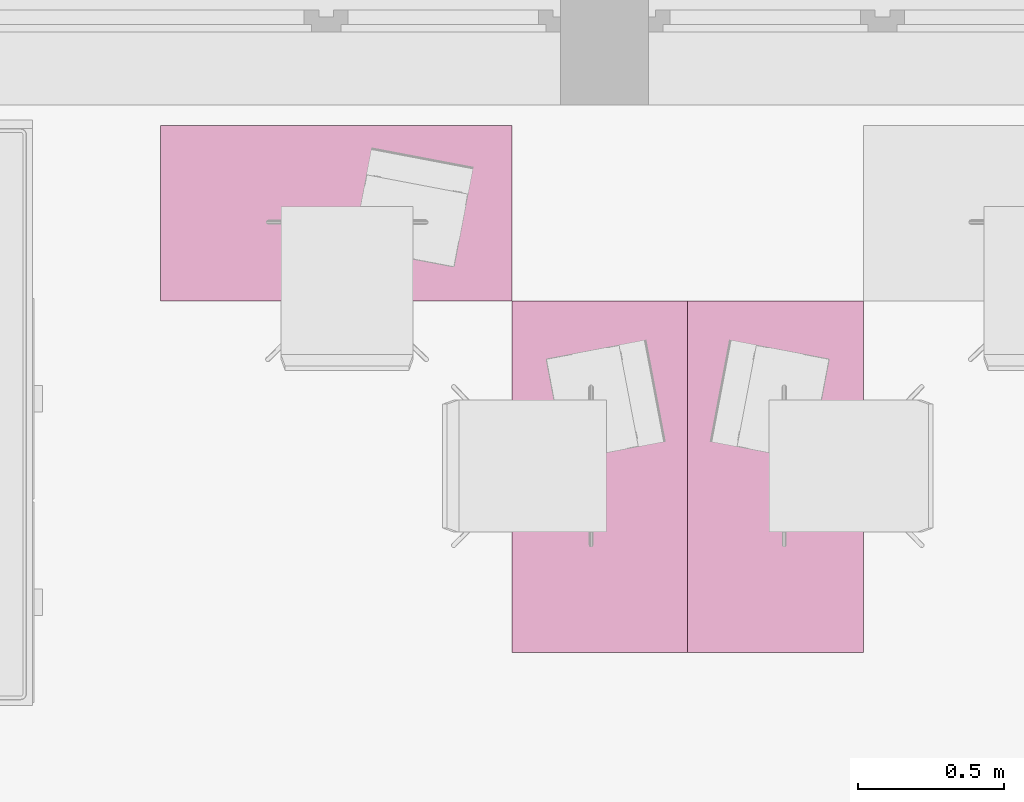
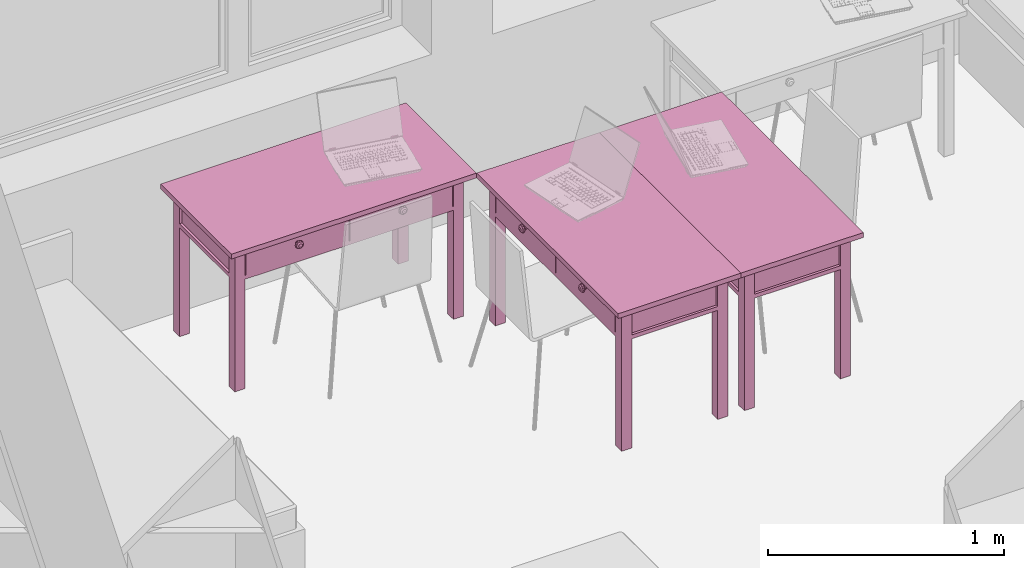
# One storey, part 147 of 165: 3 furnishings.
"""IFC2X3 building model written with IfcOpenShell, lengths in millimetres."""

from ifc_helpers import new_model, entity, si_unit, converted_unit, money_unit, direction, frame, origin_with_axes, place, context, subcontext, project, spatial, faceted_brep, source, transform, mapped, material, material_list, type_object, element, save


model = new_model("IFC2X3")

# Units and contexts
model_context = context("Model", 3, precision=1e-05, world=origin_with_axes(), true_north=direction((0.0, 1.0)))
body_context = subcontext(model_context, "Body", "Model", "MODEL_VIEW")
ifc_project = project(units=[si_unit("LENGTHUNIT", "METRE", prefix="MILLI"), si_unit("AREAUNIT", "SQUARE_METRE"), si_unit("VOLUMEUNIT", "CUBIC_METRE"), converted_unit("PLANEANGLEUNIT", "DEGREE", entity("IfcPlaneAngleMeasure", 0.0174532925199), si_unit("PLANEANGLEUNIT", "RADIAN"), dimensions=[0, 0, 0, 0, 0, 0, 0]), si_unit("SOLIDANGLEUNIT", "STERADIAN"), money_unit("USD"), converted_unit("TIMEUNIT", "Year", entity("IfcTimeMeasure", 31556926.0), si_unit("TIMEUNIT", "SECOND"), dimensions=[0, 0, 0, 0, 0, 0, 0]), si_unit("MASSUNIT", "GRAM"), si_unit("THERMODYNAMICTEMPERATUREUNIT", "DEGREE_CELSIUS"), si_unit("LUMINOUSINTENSITYUNIT", "LUMEN")], contexts=[model_context])

# Site, building, storey
site_placement = place(None, origin_with_axes())
site = spatial("IfcSite", under=ifc_project, at=site_placement, Name="Site", CompositionType="ELEMENT")
building_placement = place(site_placement, origin_with_axes())
building = spatial("IfcBuilding", under=site, at=building_placement, Name="Building", CompositionType="ELEMENT")
storey_placement = place(building_placement, frame((0.0, 0.0, 6300.0), z_axis=(0.0, 0.0, 1.0), x_axis=(1.0, 0.0, 0.0)))
storey = spatial("IfcBuildingStorey", under=building, at=storey_placement, Name="4KORRUS", CompositionType="ELEMENT", Elevation=6300.0)

# Furnishings
ifc_material = material(Name="Background")
ifc_material_list = material_list([ifc_material])
furnishing_element_type = type_object("IfcFurnishingElementType", Name="Rectangular Table 01 19")
shared_shape_1 = source(origin_with_axes(), body_context, "Body", "Brep", [
    faceted_brep([(90.0, 40.0, 0.0), (40.0, 40.0, 0.0), (40.0, 90.0, 0.0), (90.0, 90.0, 0.0), (90.0, 40.0, 725.0), (40.0, 40.0, 725.0), (40.0, 90.0, 725.0), (90.0, 90.0, 725.0)], [[[0, 1, 2, 3]], [[1, 0, 4, 5]], [[2, 1, 5, 6]], [[3, 2, 6, 7]], [[0, 3, 7, 4]], [[5, 4, 7, 6]]]),
    faceted_brep([(1160.0, 40.0, 0.0), (1110.0, 40.0, 0.0), (1110.0, 90.0, 0.0), (1160.0, 90.0, 0.0), (1160.0, 40.0, 725.0), (1110.0, 40.0, 725.0), (1110.0, 90.0, 725.0), (1160.0, 90.0, 725.0)], [[[0, 1, 2, 3]], [[1, 0, 4, 5]], [[2, 1, 5, 6]], [[3, 2, 6, 7]], [[0, 3, 7, 4]], [[5, 4, 7, 6]]]),
    faceted_brep([(90.0, 510.0, 0.0), (40.0, 510.0, 0.0), (40.0, 560.0, 0.0), (90.0, 560.0, 0.0), (90.0, 510.0, 725.0), (40.0, 510.0, 725.0), (40.0, 560.0, 725.0), (90.0, 560.0, 725.0)], [[[0, 1, 2, 3]], [[1, 0, 4, 5]], [[2, 1, 5, 6]], [[3, 2, 6, 7]], [[0, 3, 7, 4]], [[5, 4, 7, 6]]]),
    faceted_brep([(1160.0, 510.0, 0.0), (1110.0, 510.0, 0.0), (1110.0, 560.0, 0.0), (1160.0, 560.0, 0.0), (1160.0, 510.0, 725.0), (1110.0, 510.0, 725.0), (1110.0, 560.0, 725.0), (1160.0, 560.0, 725.0)], [[[0, 1, 2, 3]], [[1, 0, 4, 5]], [[2, 1, 5, 6]], [[3, 2, 6, 7]], [[0, 3, 7, 4]], [[5, 4, 7, 6]]]),
    faceted_brep([(1160.0, 40.0, 565.0), (40.0, 40.0, 565.0), (40.0, 560.0, 565.0), (1160.0, 560.0, 565.0), (1160.0, 40.0, 585.0), (40.0, 40.0, 585.0), (40.0, 560.0, 585.0), (1160.0, 560.0, 585.0)], [[[0, 1, 2, 3]], [[1, 0, 4, 5]], [[2, 1, 5, 6]], [[3, 2, 6, 7]], [[0, 3, 7, 4]], [[5, 4, 7, 6]]]),
    faceted_brep([(1110.0, 52.5, 585.0), (90.0, 52.5, 585.0), (90.0, 77.5, 585.0), (1110.0, 77.5, 585.0), (1110.0, 52.5, 745.0), (90.0, 52.5, 745.0), (90.0, 77.5, 745.0), (1110.0, 77.5, 745.0)], [[[0, 1, 2, 3]], [[1, 0, 4, 5]], [[2, 1, 5, 6]], [[3, 2, 6, 7]], [[0, 3, 7, 4]], [[5, 4, 7, 6]]]),
    faceted_brep([(77.5, 90.0, 585.0), (52.5, 90.0, 585.0), (52.5, 510.0, 585.0), (77.5, 510.0, 585.0), (77.5, 90.0, 745.0), (52.5, 90.0, 745.0), (52.5, 510.0, 745.0), (77.5, 510.0, 745.0)], [[[0, 1, 2, 3]], [[1, 0, 4, 5]], [[2, 1, 5, 6]], [[3, 2, 6, 7]], [[0, 3, 7, 4]], [[5, 4, 7, 6]]]),
    faceted_brep([(90.0, 547.5, 585.0), (1110.0, 547.5, 585.0), (1110.0, 522.5, 585.0), (90.0, 522.5, 585.0), (90.0, 547.5, 745.0), (1110.0, 547.5, 745.0), (1110.0, 522.5, 745.0), (90.0, 522.5, 745.0)], [[[0, 1, 2, 3]], [[1, 0, 4, 5]], [[2, 1, 5, 6]], [[3, 2, 6, 7]], [[0, 3, 7, 4]], [[5, 4, 7, 6]]]),
    faceted_brep([(1122.5, 510.0, 585.0), (1147.5, 510.0, 585.0), (1147.5, 90.0, 585.0), (1122.5, 90.0, 585.0), (1122.5, 510.0, 745.0), (1147.5, 510.0, 745.0), (1147.5, 90.0, 745.0), (1122.5, 90.0, 745.0)], [[[0, 1, 2, 3]], [[1, 0, 4, 5]], [[2, 1, 5, 6]], [[3, 2, 6, 7]], [[0, 3, 7, 4]], [[5, 4, 7, 6]]]),
    faceted_brep([(597.5, 40.0, 585.0), (95.0, 40.0, 585.0), (95.0, 60.0, 585.0), (597.5, 60.0, 585.0), (597.5, 40.0, 745.0), (95.0, 40.0, 745.0), (95.0, 60.0, 745.0), (597.5, 60.0, 745.0)], [[[0, 1, 2, 3]], [[1, 0, 4, 5]], [[2, 1, 5, 6]], [[3, 2, 6, 7]], [[0, 3, 7, 4]], [[5, 4, 7, 6]]]),
    faceted_brep([(1105.0, 40.0, 585.0), (602.5, 40.0, 585.0), (602.5, 60.0, 585.0), (1105.0, 60.0, 585.0), (1105.0, 40.0, 745.0), (602.5, 40.0, 745.0), (602.5, 60.0, 745.0), (1105.0, 60.0, 745.0)], [[[0, 1, 2, 3]], [[1, 0, 4, 5]], [[2, 1, 5, 6]], [[3, 2, 6, 7]], [[0, 3, 7, 4]], [[5, 4, 7, 6]]]),
    faceted_brep([(354.91, 40.0, 660.0), (351.25, 40.0, 656.34), (346.25, 40.0, 655.0), (341.25, 40.0, 656.34), (337.59, 40.0, 660.0), (336.25, 40.0, 665.0), (337.59, 40.0, 670.0), (341.25, 40.0, 673.66), (346.25, 40.0, 675.0), (351.25, 40.0, 673.66), (354.91, 40.0, 670.0), (356.25, 40.0, 665.0), (354.91, 25.0, 660.0), (351.25, 25.0, 656.34), (346.25, 25.0, 655.0), (341.25, 25.0, 656.34), (337.59, 25.0, 660.0), (336.25, 25.0, 665.0), (337.59, 25.0, 670.0), (341.25, 25.0, 673.66), (346.25, 25.0, 675.0), (351.25, 25.0, 673.66), (354.91, 25.0, 670.0), (356.25, 25.0, 665.0)], [[[0, 1, 2, 3, 4, 5, 6, 7, 8, 9, 10, 11]], [[1, 0, 12, 13]], [[2, 1, 13, 14]], [[3, 2, 14, 15]], [[4, 3, 15, 16]], [[5, 4, 16, 17]], [[6, 5, 17, 18]], [[7, 6, 18, 19]], [[8, 7, 19, 20]], [[9, 8, 20, 21]], [[10, 9, 21, 22]], [[11, 10, 22, 23]], [[0, 11, 23, 12]], [[12, 23, 22, 21, 20, 19, 18, 17, 16, 15, 14, 13]]]),
    faceted_brep([(356.25, 12.01, 665.0), (346.25, 10.0, 665.0), (354.91, 12.01, 660.0), (354.91, 12.01, 670.0), (351.25, 12.01, 656.34), (363.571, 17.5, 665.0), (361.25, 17.5, 656.34), (351.25, 12.01, 673.66), (361.25, 17.5, 673.66), (346.25, 12.01, 655.0), (354.91, 17.5, 650.0), (366.25, 25.0, 665.0), (363.571, 25.0, 655.0), (346.25, 12.01, 675.0), (354.91, 17.5, 680.0), (363.571, 25.0, 675.0), (341.25, 12.01, 656.34), (346.25, 17.5, 647.679), (356.25, 25.0, 647.679), (346.25, 25.0, 645.0), (336.25, 25.0, 647.679), (328.929, 25.0, 655.0), (326.25, 25.0, 665.0), (328.929, 25.0, 675.0), (336.25, 25.0, 682.321), (346.25, 25.0, 685.0), (356.25, 25.0, 682.321), (341.25, 12.01, 673.66), (346.25, 17.5, 682.321), (337.59, 12.01, 660.0), (337.59, 17.5, 650.0), (331.25, 17.5, 656.34), (328.929, 17.5, 665.0), (331.25, 17.5, 673.66), (337.59, 17.5, 680.0), (337.59, 12.01, 670.0), (336.25, 12.01, 665.0)], [[[0, 1, 2]], [[3, 1, 0]], [[2, 1, 4]], [[5, 0, 2, 6]], [[7, 1, 3]], [[8, 3, 0, 5]], [[4, 1, 9]], [[6, 2, 4, 10]], [[11, 5, 6, 12]], [[13, 1, 7]], [[14, 7, 3, 8]], [[15, 8, 5, 11]], [[9, 1, 16]], [[10, 4, 9, 17]], [[12, 6, 10, 18]], [[12, 18, 19, 20, 21, 22, 23, 24, 25, 26, 15, 11]], [[27, 1, 13]], [[28, 13, 7, 14]], [[26, 14, 8, 15]], [[16, 1, 29]], [[17, 9, 16, 30]], [[18, 10, 17, 19]], [[19, 17, 30, 20]], [[20, 30, 31, 21]], [[21, 31, 32, 22]], [[22, 32, 33, 23]], [[23, 33, 34, 24]], [[24, 34, 28, 25]], [[25, 28, 14, 26]], [[35, 1, 27]], [[34, 27, 13, 28]], [[29, 1, 36]], [[30, 16, 29, 31]], [[31, 29, 36, 32]], [[32, 36, 35, 33]], [[33, 35, 27, 34]], [[36, 1, 35]]]),
    faceted_brep([(862.41, 40.0, 660.0), (858.75, 40.0, 656.34), (853.75, 40.0, 655.0), (848.75, 40.0, 656.34), (845.09, 40.0, 660.0), (843.75, 40.0, 665.0), (845.09, 40.0, 670.0), (848.75, 40.0, 673.66), (853.75, 40.0, 675.0), (858.75, 40.0, 673.66), (862.41, 40.0, 670.0), (863.75, 40.0, 665.0), (862.41, 25.0, 660.0), (858.75, 25.0, 656.34), (853.75, 25.0, 655.0), (848.75, 25.0, 656.34), (845.09, 25.0, 660.0), (843.75, 25.0, 665.0), (845.09, 25.0, 670.0), (848.75, 25.0, 673.66), (853.75, 25.0, 675.0), (858.75, 25.0, 673.66), (862.41, 25.0, 670.0), (863.75, 25.0, 665.0)], [[[0, 1, 2, 3, 4, 5, 6, 7, 8, 9, 10, 11]], [[1, 0, 12, 13]], [[2, 1, 13, 14]], [[3, 2, 14, 15]], [[4, 3, 15, 16]], [[5, 4, 16, 17]], [[6, 5, 17, 18]], [[7, 6, 18, 19]], [[8, 7, 19, 20]], [[9, 8, 20, 21]], [[10, 9, 21, 22]], [[11, 10, 22, 23]], [[0, 11, 23, 12]], [[12, 23, 22, 21, 20, 19, 18, 17, 16, 15, 14, 13]]]),
    faceted_brep([(863.75, 12.01, 665.0), (853.75, 10.0, 665.0), (862.41, 12.01, 660.0), (862.41, 12.01, 670.0), (858.75, 12.01, 656.34), (871.071, 17.5, 665.0), (868.75, 17.5, 656.34), (858.75, 12.01, 673.66), (868.75, 17.5, 673.66), (853.75, 12.01, 655.0), (862.41, 17.5, 650.0), (873.75, 25.0, 665.0), (871.071, 25.0, 655.0), (853.75, 12.01, 675.0), (862.41, 17.5, 680.0), (871.071, 25.0, 675.0), (848.75, 12.01, 656.34), (853.75, 17.5, 647.679), (863.75, 25.0, 647.679), (853.75, 25.0, 645.0), (843.75, 25.0, 647.679), (836.429, 25.0, 655.0), (833.75, 25.0, 665.0), (836.429, 25.0, 675.0), (843.75, 25.0, 682.321), (853.75, 25.0, 685.0), (863.75, 25.0, 682.321), (848.75, 12.01, 673.66), (853.75, 17.5, 682.321), (845.09, 12.01, 660.0), (845.09, 17.5, 650.0), (838.75, 17.5, 656.34), (836.429, 17.5, 665.0), (838.75, 17.5, 673.66), (845.09, 17.5, 680.0), (845.09, 12.01, 670.0), (843.75, 12.01, 665.0)], [[[0, 1, 2]], [[3, 1, 0]], [[2, 1, 4]], [[5, 0, 2, 6]], [[7, 1, 3]], [[8, 3, 0, 5]], [[4, 1, 9]], [[6, 2, 4, 10]], [[11, 5, 6, 12]], [[13, 1, 7]], [[14, 7, 3, 8]], [[15, 8, 5, 11]], [[9, 1, 16]], [[10, 4, 9, 17]], [[12, 6, 10, 18]], [[12, 18, 19, 20, 21, 22, 23, 24, 25, 26, 15, 11]], [[27, 1, 13]], [[28, 13, 7, 14]], [[26, 14, 8, 15]], [[16, 1, 29]], [[17, 9, 16, 30]], [[18, 10, 17, 19]], [[19, 17, 30, 20]], [[20, 30, 31, 21]], [[21, 31, 32, 22]], [[22, 32, 33, 23]], [[23, 33, 34, 24]], [[24, 34, 28, 25]], [[25, 28, 14, 26]], [[35, 1, 27]], [[34, 27, 13, 28]], [[29, 1, 36]], [[30, 16, 29, 31]], [[31, 29, 36, 32]], [[32, 36, 35, 33]], [[33, 35, 27, 34]], [[36, 1, 35]]]),
    faceted_brep([(1200.0, 0.0, 725.0), (0.0, 0.0, 725.0), (0.0, 600.0, 725.0), (1200.0, 600.0, 725.0), (1200.0, 0.0, 750.0), (0.0, 0.0, 750.0), (0.0, 600.0, 750.0), (1200.0, 600.0, 750.0)], [[[0, 1, 2, 3]], [[1, 0, 4, 5]], [[2, 1, 5, 6]], [[3, 2, 6, 7]], [[0, 3, 7, 4]], [[5, 4, 7, 6]]]),
])
furnishing_placement = place(storey_placement, frame((14547.396797, -5809.21572375, 0.0), z_axis=(0.0, 0.0, 1.0), x_axis=(0.0, -1.0, 0.0)))
element("IfcFurnishingElement", 1, at=furnishing_placement, inside=storey, type_object=furnishing_element_type, material=ifc_material_list, Name="FU - 011", context=body_context, shape_type="MappedRepresentation", body=[
    mapped(shared_shape_1, transform((0.0, 0.0, 0.0))),
])
shared_shape_2 = source(origin_with_axes(), body_context, "Body", "Brep", [
    faceted_brep([(-90.0, 40.0, 0.0), (-90.0, 90.0, 0.0), (-40.0, 90.0, 0.0), (-40.0, 40.0, 0.0), (-90.0, 40.0, 725.0), (-90.0, 90.0, 725.0), (-40.0, 90.0, 725.0), (-40.0, 40.0, 725.0)], [[[0, 1, 2, 3]], [[0, 4, 5, 1]], [[1, 5, 6, 2]], [[2, 6, 7, 3]], [[3, 7, 4, 0]], [[7, 6, 5, 4]]]),
    faceted_brep([(-1160.0, 40.0, 0.0), (-1160.0, 90.0, 0.0), (-1110.0, 90.0, 0.0), (-1110.0, 40.0, 0.0), (-1160.0, 40.0, 725.0), (-1160.0, 90.0, 725.0), (-1110.0, 90.0, 725.0), (-1110.0, 40.0, 725.0)], [[[0, 1, 2, 3]], [[0, 4, 5, 1]], [[1, 5, 6, 2]], [[2, 6, 7, 3]], [[3, 7, 4, 0]], [[7, 6, 5, 4]]]),
    faceted_brep([(-90.0, 510.0, 0.0), (-90.0, 560.0, 0.0), (-40.0, 560.0, 0.0), (-40.0, 510.0, 0.0), (-90.0, 510.0, 725.0), (-90.0, 560.0, 725.0), (-40.0, 560.0, 725.0), (-40.0, 510.0, 725.0)], [[[0, 1, 2, 3]], [[0, 4, 5, 1]], [[1, 5, 6, 2]], [[2, 6, 7, 3]], [[3, 7, 4, 0]], [[7, 6, 5, 4]]]),
    faceted_brep([(-1160.0, 510.0, 0.0), (-1160.0, 560.0, 0.0), (-1110.0, 560.0, 0.0), (-1110.0, 510.0, 0.0), (-1160.0, 510.0, 725.0), (-1160.0, 560.0, 725.0), (-1110.0, 560.0, 725.0), (-1110.0, 510.0, 725.0)], [[[0, 1, 2, 3]], [[0, 4, 5, 1]], [[1, 5, 6, 2]], [[2, 6, 7, 3]], [[3, 7, 4, 0]], [[7, 6, 5, 4]]]),
    faceted_brep([(-1160.0, 40.0, 565.0), (-1160.0, 560.0, 565.0), (-40.0, 560.0, 565.0), (-40.0, 40.0, 565.0), (-1160.0, 40.0, 585.0), (-1160.0, 560.0, 585.0), (-40.0, 560.0, 585.0), (-40.0, 40.0, 585.0)], [[[0, 1, 2, 3]], [[0, 4, 5, 1]], [[1, 5, 6, 2]], [[2, 6, 7, 3]], [[3, 7, 4, 0]], [[7, 6, 5, 4]]]),
    faceted_brep([(-1110.0, 52.5, 585.0), (-1110.0, 77.5, 585.0), (-90.0, 77.5, 585.0), (-90.0, 52.5, 585.0), (-1110.0, 52.5, 745.0), (-1110.0, 77.5, 745.0), (-90.0, 77.5, 745.0), (-90.0, 52.5, 745.0)], [[[0, 1, 2, 3]], [[0, 4, 5, 1]], [[1, 5, 6, 2]], [[2, 6, 7, 3]], [[3, 7, 4, 0]], [[7, 6, 5, 4]]]),
    faceted_brep([(-77.5, 90.0, 585.0), (-77.5, 510.0, 585.0), (-52.5, 510.0, 585.0), (-52.5, 90.0, 585.0), (-77.5, 90.0, 745.0), (-77.5, 510.0, 745.0), (-52.5, 510.0, 745.0), (-52.5, 90.0, 745.0)], [[[0, 1, 2, 3]], [[0, 4, 5, 1]], [[1, 5, 6, 2]], [[2, 6, 7, 3]], [[3, 7, 4, 0]], [[7, 6, 5, 4]]]),
    faceted_brep([(-90.0, 547.5, 585.0), (-90.0, 522.5, 585.0), (-1110.0, 522.5, 585.0), (-1110.0, 547.5, 585.0), (-90.0, 547.5, 745.0), (-90.0, 522.5, 745.0), (-1110.0, 522.5, 745.0), (-1110.0, 547.5, 745.0)], [[[0, 1, 2, 3]], [[0, 4, 5, 1]], [[1, 5, 6, 2]], [[2, 6, 7, 3]], [[3, 7, 4, 0]], [[7, 6, 5, 4]]]),
    faceted_brep([(-1122.5, 510.0, 585.0), (-1122.5, 90.0, 585.0), (-1147.5, 90.0, 585.0), (-1147.5, 510.0, 585.0), (-1122.5, 510.0, 745.0), (-1122.5, 90.0, 745.0), (-1147.5, 90.0, 745.0), (-1147.5, 510.0, 745.0)], [[[0, 1, 2, 3]], [[0, 4, 5, 1]], [[1, 5, 6, 2]], [[2, 6, 7, 3]], [[3, 7, 4, 0]], [[7, 6, 5, 4]]]),
    faceted_brep([(-597.5, 40.0, 585.0), (-597.5, 60.0, 585.0), (-95.0, 60.0, 585.0), (-95.0, 40.0, 585.0), (-597.5, 40.0, 745.0), (-597.5, 60.0, 745.0), (-95.0, 60.0, 745.0), (-95.0, 40.0, 745.0)], [[[0, 1, 2, 3]], [[0, 4, 5, 1]], [[1, 5, 6, 2]], [[2, 6, 7, 3]], [[3, 7, 4, 0]], [[7, 6, 5, 4]]]),
    faceted_brep([(-1105.0, 40.0, 585.0), (-1105.0, 60.0, 585.0), (-602.5, 60.0, 585.0), (-602.5, 40.0, 585.0), (-1105.0, 40.0, 745.0), (-1105.0, 60.0, 745.0), (-602.5, 60.0, 745.0), (-602.5, 40.0, 745.0)], [[[0, 1, 2, 3]], [[0, 4, 5, 1]], [[1, 5, 6, 2]], [[2, 6, 7, 3]], [[3, 7, 4, 0]], [[7, 6, 5, 4]]]),
    faceted_brep([(-354.91, 40.0, 660.0), (-356.25, 40.0, 665.0), (-354.91, 40.0, 670.0), (-351.25, 40.0, 673.66), (-346.25, 40.0, 675.0), (-341.25, 40.0, 673.66), (-337.59, 40.0, 670.0), (-336.25, 40.0, 665.0), (-337.59, 40.0, 660.0), (-341.25, 40.0, 656.34), (-346.25, 40.0, 655.0), (-351.25, 40.0, 656.34), (-354.91, 25.0, 660.0), (-356.25, 25.0, 665.0), (-354.91, 25.0, 670.0), (-351.25, 25.0, 673.66), (-346.25, 25.0, 675.0), (-341.25, 25.0, 673.66), (-337.59, 25.0, 670.0), (-336.25, 25.0, 665.0), (-337.59, 25.0, 660.0), (-341.25, 25.0, 656.34), (-346.25, 25.0, 655.0), (-351.25, 25.0, 656.34)], [[[0, 1, 2, 3, 4, 5, 6, 7, 8, 9, 10, 11]], [[0, 12, 13, 1]], [[1, 13, 14, 2]], [[2, 14, 15, 3]], [[3, 15, 16, 4]], [[4, 16, 17, 5]], [[5, 17, 18, 6]], [[6, 18, 19, 7]], [[7, 19, 20, 8]], [[8, 20, 21, 9]], [[9, 21, 22, 10]], [[10, 22, 23, 11]], [[11, 23, 12, 0]], [[12, 23, 22, 21, 20, 19, 18, 17, 16, 15, 14, 13]]]),
    faceted_brep([(-356.25, 12.01, 665.0), (-354.91, 12.01, 660.0), (-346.25, 10.0, 665.0), (-363.571, 17.5, 665.0), (-361.25, 17.5, 656.34), (-351.25, 12.01, 656.34), (-354.91, 12.01, 670.0), (-366.25, 25.0, 665.0), (-363.571, 25.0, 655.0), (-354.91, 17.5, 650.0), (-361.25, 17.5, 673.66), (-346.25, 12.01, 655.0), (-351.25, 12.01, 673.66), (-363.571, 25.0, 675.0), (-356.25, 25.0, 682.321), (-346.25, 25.0, 685.0), (-336.25, 25.0, 682.321), (-328.929, 25.0, 675.0), (-326.25, 25.0, 665.0), (-328.929, 25.0, 655.0), (-336.25, 25.0, 647.679), (-346.25, 25.0, 645.0), (-356.25, 25.0, 647.679), (-346.25, 17.5, 647.679), (-354.91, 17.5, 680.0), (-341.25, 12.01, 656.34), (-346.25, 12.01, 675.0), (-346.25, 17.5, 682.321), (-337.59, 17.5, 680.0), (-331.25, 17.5, 673.66), (-328.929, 17.5, 665.0), (-331.25, 17.5, 656.34), (-337.59, 17.5, 650.0), (-337.59, 12.01, 660.0), (-341.25, 12.01, 673.66), (-337.59, 12.01, 670.0), (-336.25, 12.01, 665.0)], [[[0, 1, 2]], [[3, 4, 1, 0]], [[1, 5, 2]], [[6, 0, 2]], [[7, 8, 4, 3]], [[4, 9, 5, 1]], [[10, 3, 0, 6]], [[5, 11, 2]], [[12, 6, 2]], [[8, 7, 13, 14, 15, 16, 17, 18, 19, 20, 21, 22]], [[8, 22, 9, 4]], [[13, 7, 3, 10]], [[9, 23, 11, 5]], [[24, 10, 6, 12]], [[11, 25, 2]], [[26, 12, 2]], [[14, 13, 10, 24]], [[15, 14, 24, 27]], [[16, 15, 27, 28]], [[17, 16, 28, 29]], [[18, 17, 29, 30]], [[19, 18, 30, 31]], [[20, 19, 31, 32]], [[21, 20, 32, 23]], [[22, 21, 23, 9]], [[23, 32, 25, 11]], [[27, 24, 12, 26]], [[25, 33, 2]], [[34, 26, 2]], [[28, 27, 26, 34]], [[29, 28, 34, 35]], [[30, 29, 35, 36]], [[31, 30, 36, 33]], [[32, 31, 33, 25]], [[33, 36, 2]], [[35, 34, 2]], [[36, 35, 2]]]),
    faceted_brep([(-862.41, 40.0, 660.0), (-863.75, 40.0, 665.0), (-862.41, 40.0, 670.0), (-858.75, 40.0, 673.66), (-853.75, 40.0, 675.0), (-848.75, 40.0, 673.66), (-845.09, 40.0, 670.0), (-843.75, 40.0, 665.0), (-845.09, 40.0, 660.0), (-848.75, 40.0, 656.34), (-853.75, 40.0, 655.0), (-858.75, 40.0, 656.34), (-862.41, 25.0, 660.0), (-863.75, 25.0, 665.0), (-862.41, 25.0, 670.0), (-858.75, 25.0, 673.66), (-853.75, 25.0, 675.0), (-848.75, 25.0, 673.66), (-845.09, 25.0, 670.0), (-843.75, 25.0, 665.0), (-845.09, 25.0, 660.0), (-848.75, 25.0, 656.34), (-853.75, 25.0, 655.0), (-858.75, 25.0, 656.34)], [[[0, 1, 2, 3, 4, 5, 6, 7, 8, 9, 10, 11]], [[0, 12, 13, 1]], [[1, 13, 14, 2]], [[2, 14, 15, 3]], [[3, 15, 16, 4]], [[4, 16, 17, 5]], [[5, 17, 18, 6]], [[6, 18, 19, 7]], [[7, 19, 20, 8]], [[8, 20, 21, 9]], [[9, 21, 22, 10]], [[10, 22, 23, 11]], [[11, 23, 12, 0]], [[12, 23, 22, 21, 20, 19, 18, 17, 16, 15, 14, 13]]]),
    faceted_brep([(-863.75, 12.01, 665.0), (-862.41, 12.01, 660.0), (-853.75, 10.0, 665.0), (-871.071, 17.5, 665.0), (-868.75, 17.5, 656.34), (-858.75, 12.01, 656.34), (-862.41, 12.01, 670.0), (-873.75, 25.0, 665.0), (-871.071, 25.0, 655.0), (-862.41, 17.5, 650.0), (-868.75, 17.5, 673.66), (-853.75, 12.01, 655.0), (-858.75, 12.01, 673.66), (-871.071, 25.0, 675.0), (-863.75, 25.0, 682.321), (-853.75, 25.0, 685.0), (-843.75, 25.0, 682.321), (-836.429, 25.0, 675.0), (-833.75, 25.0, 665.0), (-836.429, 25.0, 655.0), (-843.75, 25.0, 647.679), (-853.75, 25.0, 645.0), (-863.75, 25.0, 647.679), (-853.75, 17.5, 647.679), (-862.41, 17.5, 680.0), (-848.75, 12.01, 656.34), (-853.75, 12.01, 675.0), (-853.75, 17.5, 682.321), (-845.09, 17.5, 680.0), (-838.75, 17.5, 673.66), (-836.429, 17.5, 665.0), (-838.75, 17.5, 656.34), (-845.09, 17.5, 650.0), (-845.09, 12.01, 660.0), (-848.75, 12.01, 673.66), (-845.09, 12.01, 670.0), (-843.75, 12.01, 665.0)], [[[0, 1, 2]], [[3, 4, 1, 0]], [[1, 5, 2]], [[6, 0, 2]], [[7, 8, 4, 3]], [[4, 9, 5, 1]], [[10, 3, 0, 6]], [[5, 11, 2]], [[12, 6, 2]], [[8, 7, 13, 14, 15, 16, 17, 18, 19, 20, 21, 22]], [[8, 22, 9, 4]], [[13, 7, 3, 10]], [[9, 23, 11, 5]], [[24, 10, 6, 12]], [[11, 25, 2]], [[26, 12, 2]], [[14, 13, 10, 24]], [[15, 14, 24, 27]], [[16, 15, 27, 28]], [[17, 16, 28, 29]], [[18, 17, 29, 30]], [[19, 18, 30, 31]], [[20, 19, 31, 32]], [[21, 20, 32, 23]], [[22, 21, 23, 9]], [[23, 32, 25, 11]], [[27, 24, 12, 26]], [[25, 33, 2]], [[34, 26, 2]], [[28, 27, 26, 34]], [[29, 28, 34, 35]], [[30, 29, 35, 36]], [[31, 30, 36, 33]], [[32, 31, 33, 25]], [[33, 36, 2]], [[35, 34, 2]], [[36, 35, 2]]]),
    faceted_brep([(-1200.0, 0.0, 725.0), (-1200.0, 600.0, 725.0), (0.0, 600.0, 725.0), (0.0, 0.0, 725.0), (-1200.0, 0.0, 750.0), (-1200.0, 600.0, 750.0), (0.0, 600.0, 750.0), (0.0, 0.0, 750.0)], [[[0, 1, 2, 3]], [[0, 4, 5, 1]], [[1, 5, 6, 2]], [[2, 6, 7, 3]], [[3, 7, 4, 0]], [[7, 6, 5, 4]]]),
])
for number, where, z_axis, x_axis, name in (
    (2, (14547.396797, -5809.21572375, 0.0), (0.0, 0.0, 1.0), (1.0, 0.0, 0.0), "FU - 011"),
    (3, (15747.396797, -5809.21572375, 0.0), (0.0, 0.0, 1.0), (0.0, 1.0, 0.0), "FU - 011"),
):
    element("IfcFurnishingElement", number, at=place(storey_placement, frame(where, z_axis=z_axis, x_axis=x_axis)), inside=storey, type_object=furnishing_element_type, material=ifc_material_list, Name=name, context=body_context, shape_type="MappedRepresentation", body=[
        mapped(shared_shape_2, transform((0.0, 0.0, 0.0))),
    ])

save(model, "model.ifc")
